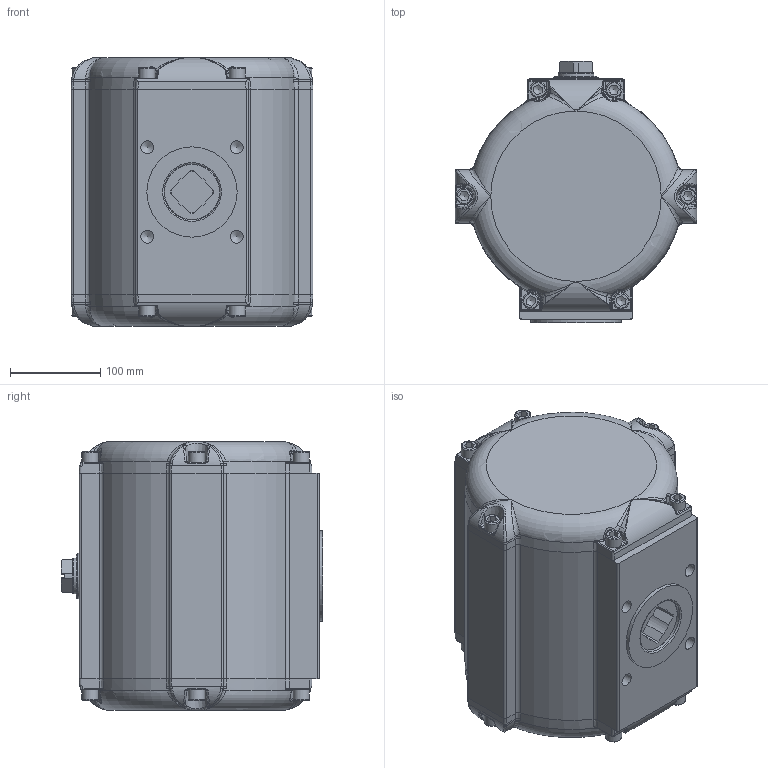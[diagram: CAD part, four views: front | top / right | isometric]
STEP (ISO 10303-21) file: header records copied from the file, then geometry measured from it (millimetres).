
FILE_DESCRIPTION(/* description */ (''),/* implementation_level */ '2;1');
FILE_NAME(/* name */ 'C:\Users\war\Desktop\BR03C_SAD_40.stp',/* time_stamp */ '2021-05-05T09:08:51+02:00',/* author */ ('war'),/* organization */ (''),/* preprocessor_version */ 'ST-DEVELOPER v18.1',/* originating_system */ 'Autodesk Inventor 2021',/* authorisation */ '');
FILE_SCHEMA (('AUTOMOTIVE_DESIGN { 1 0 10303 214 3 1 1 }'));
Products named in the file (1): ENG-038747_Shrinkwrap_1
Bounding box: 268 x 290 x 298 mm (x, y, z)
Volume: 6539670.2 mm3; surface area: 901458.3 mm2
Topology: 1 solids, 1 shells, 1528 faces, 3803 edges, 2303 vertices
Faces by surface type: bspline 437, cylinder 431, plane 425, torus 151, cone 84
Full cylindrical faces by diameter (mm): 2.5 x2, 4.134 x8, 4.917 x1, 6 x2, 8 x1, 8.376 x2, 10 x2, 11.445 x2, 12 x2, 14.376 x4, 18 x12, 30 x4, 30.2 x4, 33 x1, 34 x2, 34.4 x2, 35 x1, 36 x1, 37 x2, 39.8 x3, 40 x2, 40.1 x1, 45 x1, 48.5 x1, 50 x2, 50.4 x7, 57 x3, 60 x1, 61.8 x3, 62 x2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
Entity records: 62503 total; most frequent: CARTESIAN_POINT 27542, ORIENTED_EDGE 7456, DIRECTION 6249, EDGE_CURVE 3728, AXIS2_PLACEMENT_3D 2507, VERTEX_POINT 2303, EDGE_LOOP 1645, STYLED_ITEM 1529
